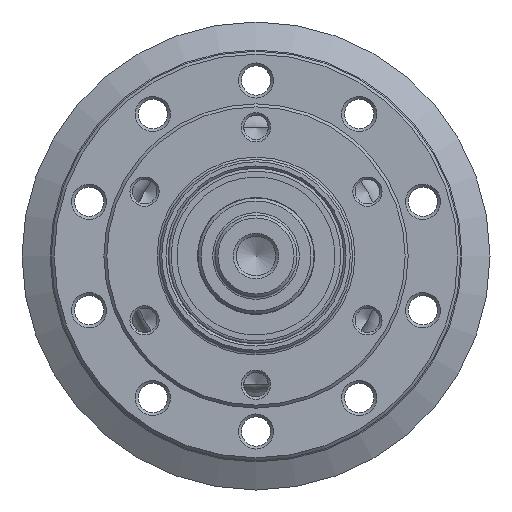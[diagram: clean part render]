
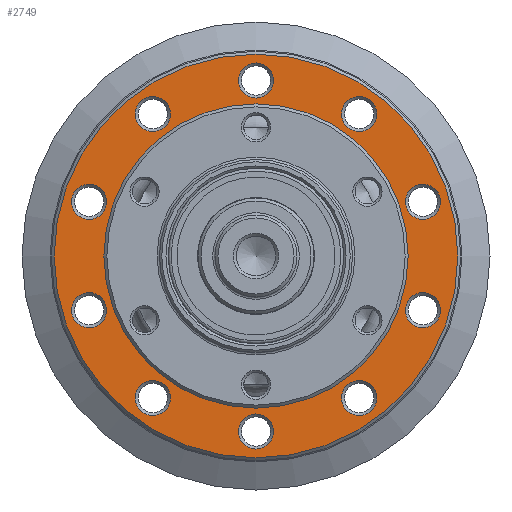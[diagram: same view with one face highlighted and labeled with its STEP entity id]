
A CAD part, left-side view. The second image highlights one B-rep face of the part: STEP entity #2749.
In plain terms, the highlighted planar face has unit normal (-1, 0, 0).
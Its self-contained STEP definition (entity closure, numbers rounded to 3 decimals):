
#43 = VERTEX_POINT ( 'NONE', #3466 ) ;
#61 = EDGE_LOOP ( 'NONE', ( #4103 ) ) ;
#76 = CIRCLE ( 'NONE', #4318, 3. ) ;
#81 = EDGE_CURVE ( 'NONE', #3019, #3019, #3501, .T. ) ;
#149 = EDGE_CURVE ( 'NONE', #3162, #3162, #3943, .T. ) ;
#171 = EDGE_LOOP ( 'NONE', ( #1611 ) ) ;
#176 = ORIENTED_EDGE ( 'NONE', *, *, #1768, .T. ) ;
#259 = DIRECTION ( 'NONE',  ( 0., 0., -1. ) ) ;
#261 = VERTEX_POINT ( 'NONE', #1617 ) ;
#282 = DIRECTION ( 'NONE',  ( -1., 0., 0. ) ) ;
#334 = VERTEX_POINT ( 'NONE', #4111 ) ;
#373 = DIRECTION ( 'NONE',  ( 0., 0., 1. ) ) ;
#379 = CARTESIAN_POINT ( 'NONE',  ( 25., -17.634, -27.271 ) ) ;
#437 = AXIS2_PLACEMENT_3D ( 'NONE', #1417, #2131, #2497 ) ;
#501 = AXIS2_PLACEMENT_3D ( 'NONE', #558, #1923, #4252 ) ;
#538 = FACE_BOUND ( 'NONE', #4082, .T. ) ;
#558 = CARTESIAN_POINT ( 'NONE',  ( 25., 0., -35. ) ) ;
#588 = ORIENTED_EDGE ( 'NONE', *, *, #3617, .T. ) ;
#615 = EDGE_CURVE ( 'NONE', #3857, #3857, #3122, .T. ) ;
#621 = CIRCLE ( 'NONE', #3718, 3. ) ;
#626 = ORIENTED_EDGE ( 'NONE', *, *, #3092, .T. ) ;
#665 = AXIS2_PLACEMENT_3D ( 'NONE', #4411, #1299, #2394 ) ;
#728 = EDGE_LOOP ( 'NONE', ( #2000 ) ) ;
#772 = CARTESIAN_POINT ( 'NONE',  ( 25., 0., 26. ) ) ;
#773 = DIRECTION ( 'NONE',  ( 0., 0., -1. ) ) ;
#794 = CARTESIAN_POINT ( 'NONE',  ( 25., 0., -30. ) ) ;
#849 = ORIENTED_EDGE ( 'NONE', *, *, #2109, .T. ) ;
#875 = CARTESIAN_POINT ( 'NONE',  ( 25., 28.532, -12.271 ) ) ;
#891 = DIRECTION ( 'NONE',  ( 1., 0., 0. ) ) ;
#914 = CIRCLE ( 'NONE', #986, 3. ) ;
#930 = DIRECTION ( 'NONE',  ( 0., 0., -1. ) ) ;
#968 = EDGE_CURVE ( 'NONE', #2851, #2851, #1652, .T. ) ;
#986 = AXIS2_PLACEMENT_3D ( 'NONE', #2410, #2318, #2724 ) ;
#1033 = CARTESIAN_POINT ( 'NONE',  ( 25., 28.532, -9.271 ) ) ;
#1108 = CARTESIAN_POINT ( 'NONE',  ( 25., 17.634, 21.271 ) ) ;
#1178 = FACE_BOUND ( 'NONE', #728, .T. ) ;
#1241 = CARTESIAN_POINT ( 'NONE',  ( 25., 0., 0. ) ) ;
#1261 = CARTESIAN_POINT ( 'NONE',  ( 25., -28.532, -12.271 ) ) ;
#1299 = DIRECTION ( 'NONE',  ( 1., 0., 0. ) ) ;
#1373 = DIRECTION ( 'NONE',  ( 0., 0., -1. ) ) ;
#1404 = CARTESIAN_POINT ( 'NONE',  ( 25., 28.532, 9.271 ) ) ;
#1417 = CARTESIAN_POINT ( 'NONE',  ( 25., -17.634, -24.271 ) ) ;
#1543 = DIRECTION ( 'NONE',  ( 0., 0., -1. ) ) ;
#1578 = DIRECTION ( 'NONE',  ( 1., 0., 0. ) ) ;
#1587 = FACE_BOUND ( 'NONE', #1778, .T. ) ;
#1611 = ORIENTED_EDGE ( 'NONE', *, *, #615, .T. ) ;
#1617 = CARTESIAN_POINT ( 'NONE',  ( 25., 0., 27. ) ) ;
#1642 = EDGE_CURVE ( 'NONE', #3947, #3947, #3505, .T. ) ;
#1652 = CIRCLE ( 'NONE', #2156, 3. ) ;
#1721 = DIRECTION ( 'NONE',  ( 0., 0., -1. ) ) ;
#1760 = ORIENTED_EDGE ( 'NONE', *, *, #3317, .T. ) ;
#1768 = EDGE_CURVE ( 'NONE', #2917, #2917, #621, .T. ) ;
#1778 = EDGE_LOOP ( 'NONE', ( #3920 ) ) ;
#1821 = VERTEX_POINT ( 'NONE', #3502 ) ;
#1827 = DIRECTION ( 'NONE',  ( 0., 0., -1. ) ) ;
#1899 = FACE_BOUND ( 'NONE', #2258, .T. ) ;
#1923 = DIRECTION ( 'NONE',  ( 1., 0., 0. ) ) ;
#1995 = EDGE_LOOP ( 'NONE', ( #849 ) ) ;
#2000 = ORIENTED_EDGE ( 'NONE', *, *, #4424, .T. ) ;
#2045 = DIRECTION ( 'NONE',  ( 1., 0., 0. ) ) ;
#2109 = EDGE_CURVE ( 'NONE', #334, #334, #2753, .T. ) ;
#2130 = ORIENTED_EDGE ( 'NONE', *, *, #968, .T. ) ;
#2131 = DIRECTION ( 'NONE',  ( 1., 0., 0. ) ) ;
#2153 = AXIS2_PLACEMENT_3D ( 'NONE', #4246, #1578, #259 ) ;
#2156 = AXIS2_PLACEMENT_3D ( 'NONE', #3653, #891, #1543 ) ;
#2157 = EDGE_CURVE ( 'NONE', #261, #261, #2391, .T. ) ;
#2161 = VERTEX_POINT ( 'NONE', #379 ) ;
#2211 = DIRECTION ( 'NONE',  ( 1., 0., 0. ) ) ;
#2258 = EDGE_LOOP ( 'NONE', ( #626 ) ) ;
#2276 = CARTESIAN_POINT ( 'NONE',  ( 25., -28.532, -9.271 ) ) ;
#2318 = DIRECTION ( 'NONE',  ( 1., 0., 0. ) ) ;
#2328 = DIRECTION ( 'NONE',  ( 1., 0., 0. ) ) ;
#2342 = DIRECTION ( 'NONE',  ( 0., 0., -1. ) ) ;
#2391 = CIRCLE ( 'NONE', #665, 3. ) ;
#2394 = DIRECTION ( 'NONE',  ( 0., 0., -1. ) ) ;
#2405 = DIRECTION ( 'NONE',  ( 1., 0., 0. ) ) ;
#2410 = CARTESIAN_POINT ( 'NONE',  ( 25., -17.634, 24.271 ) ) ;
#2448 = CIRCLE ( 'NONE', #2153, 3. ) ;
#2497 = DIRECTION ( 'NONE',  ( 0., 0., -1. ) ) ;
#2555 = CARTESIAN_POINT ( 'NONE',  ( 25., 0., -33. ) ) ;
#2559 = FACE_BOUND ( 'NONE', #3130, .T. ) ;
#2614 = VERTEX_POINT ( 'NONE', #875 ) ;
#2623 = EDGE_LOOP ( 'NONE', ( #2981 ) ) ;
#2661 = CARTESIAN_POINT ( 'NONE',  ( 25., -28.532, 9.271 ) ) ;
#2724 = DIRECTION ( 'NONE',  ( 0., 0., -1. ) ) ;
#2749 = ADVANCED_FACE ( 'NONE', ( #1899, #538, #2925, #2559, #2881, #3295, #3234, #1178, #1587, #2946, #4274, #4007 ), #3651, .F. ) ;
#2753 = CIRCLE ( 'NONE', #3622, 3. ) ;
#2784 = CARTESIAN_POINT ( 'NONE',  ( 25., 0., -34.5 ) ) ;
#2798 = DIRECTION ( 'NONE',  ( -1., 0., 0. ) ) ;
#2811 = CIRCLE ( 'NONE', #437, 3. ) ;
#2820 = CARTESIAN_POINT ( 'NONE',  ( 25., 0., 0. ) ) ;
#2848 = AXIS2_PLACEMENT_3D ( 'NONE', #1404, #3492, #773 ) ;
#2851 = VERTEX_POINT ( 'NONE', #1108 ) ;
#2881 = FACE_BOUND ( 'NONE', #1995, .T. ) ;
#2917 = VERTEX_POINT ( 'NONE', #1261 ) ;
#2925 = FACE_BOUND ( 'NONE', #3324, .T. ) ;
#2946 = FACE_BOUND ( 'NONE', #4307, .T. ) ;
#2981 = ORIENTED_EDGE ( 'NONE', *, *, #81, .F. ) ;
#3019 = VERTEX_POINT ( 'NONE', #772 ) ;
#3092 = EDGE_CURVE ( 'NONE', #43, #43, #2448, .T. ) ;
#3122 = CIRCLE ( 'NONE', #3687, 34.5 ) ;
#3130 = EDGE_LOOP ( 'NONE', ( #176 ) ) ;
#3162 = VERTEX_POINT ( 'NONE', #3182 ) ;
#3182 = CARTESIAN_POINT ( 'NONE',  ( 25., 28.532, 6.271 ) ) ;
#3234 = FACE_BOUND ( 'NONE', #61, .T. ) ;
#3295 = FACE_BOUND ( 'NONE', #3644, .T. ) ;
#3317 = EDGE_CURVE ( 'NONE', #2161, #2161, #2811, .T. ) ;
#3324 = EDGE_LOOP ( 'NONE', ( #1760 ) ) ;
#3360 = AXIS2_PLACEMENT_3D ( 'NONE', #2820, #2798, #373 ) ;
#3466 = CARTESIAN_POINT ( 'NONE',  ( 25., 17.634, -27.271 ) ) ;
#3492 = DIRECTION ( 'NONE',  ( 1., 0., 0. ) ) ;
#3501 = CIRCLE ( 'NONE', #3360, 26. ) ;
#3502 = CARTESIAN_POINT ( 'NONE',  ( 25., -17.634, 21.271 ) ) ;
#3505 = CIRCLE ( 'NONE', #3578, 3. ) ;
#3578 = AXIS2_PLACEMENT_3D ( 'NONE', #794, #2211, #1827 ) ;
#3617 = EDGE_CURVE ( 'NONE', #1821, #1821, #914, .T. ) ;
#3622 = AXIS2_PLACEMENT_3D ( 'NONE', #2661, #2045, #1373 ) ;
#3644 = EDGE_LOOP ( 'NONE', ( #588 ) ) ;
#3651 = PLANE ( 'NONE',  #501 ) ;
#3653 = CARTESIAN_POINT ( 'NONE',  ( 25., 17.634, 24.271 ) ) ;
#3687 = AXIS2_PLACEMENT_3D ( 'NONE', #1241, #282, #2342 ) ;
#3718 = AXIS2_PLACEMENT_3D ( 'NONE', #2276, #2328, #930 ) ;
#3857 = VERTEX_POINT ( 'NONE', #2784 ) ;
#3920 = ORIENTED_EDGE ( 'NONE', *, *, #2157, .T. ) ;
#3943 = CIRCLE ( 'NONE', #2848, 3. ) ;
#3947 = VERTEX_POINT ( 'NONE', #2555 ) ;
#4007 = FACE_BOUND ( 'NONE', #2623, .T. ) ;
#4046 = ORIENTED_EDGE ( 'NONE', *, *, #1642, .T. ) ;
#4082 = EDGE_LOOP ( 'NONE', ( #4046 ) ) ;
#4103 = ORIENTED_EDGE ( 'NONE', *, *, #149, .T. ) ;
#4111 = CARTESIAN_POINT ( 'NONE',  ( 25., -28.532, 6.271 ) ) ;
#4246 = CARTESIAN_POINT ( 'NONE',  ( 25., 17.634, -24.271 ) ) ;
#4252 = DIRECTION ( 'NONE',  ( 0., 0., -1. ) ) ;
#4274 = FACE_OUTER_BOUND ( 'NONE', #171, .T. ) ;
#4307 = EDGE_LOOP ( 'NONE', ( #2130 ) ) ;
#4318 = AXIS2_PLACEMENT_3D ( 'NONE', #1033, #2405, #1721 ) ;
#4411 = CARTESIAN_POINT ( 'NONE',  ( 25., 0., 30. ) ) ;
#4424 = EDGE_CURVE ( 'NONE', #2614, #2614, #76, .T. ) ;
